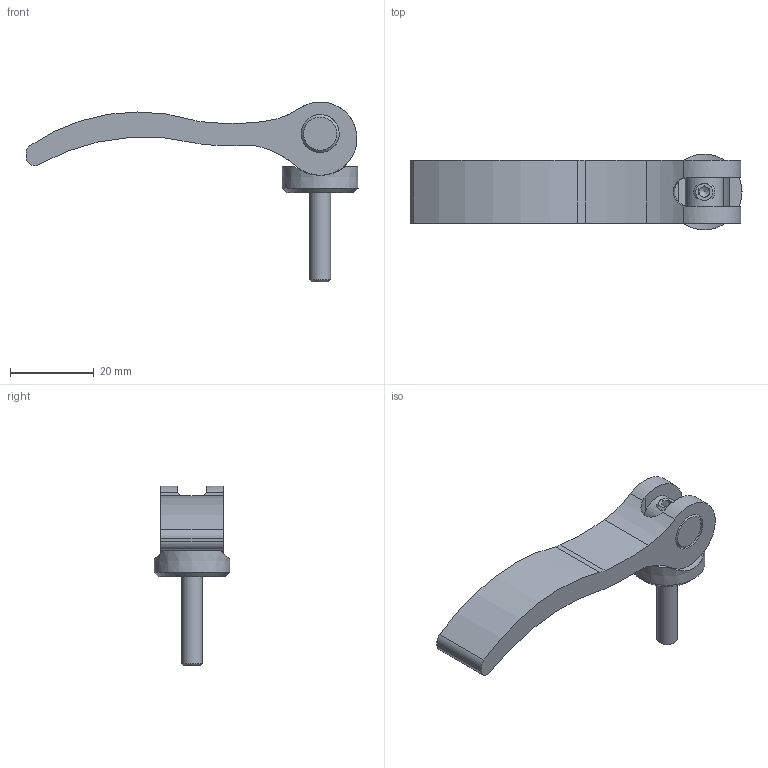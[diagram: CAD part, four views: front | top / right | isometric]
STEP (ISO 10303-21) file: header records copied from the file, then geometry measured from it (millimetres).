
FILE_DESCRIPTION(('STEP AP203'), '1');
FILE_NAME('À00360.11790520 _ Ýêñöåíòðèê 79 ìì', '', ('UNSPECIFIED'), ('UNSPECIFIED'), 'C3D Converter', 'C3D Toolkit', '');
FILE_SCHEMA(('CONFIG_CONTROL_DESIGN'));
Length unit declared in the file: millimetre
Products named in the file (5): А00360.79.03; А00360.79.02; А00360.79.01
Assembly tree (4 placements, depth 2):
  (unnamed)
    А00360.79.03
    А00360.79.02
    А00360.79.01
    (unnamed)
Bounding box: 79.33 x 18.07 x 43 mm (x, y, z)
Volume: 9794.7 mm3; surface area: 6203.8 mm2
Topology: 4 solids, 4 shells, 52 faces, 128 edges, 82 vertices
Faces by surface type: plane 24, cylinder 21, cone 7
Full cylindrical faces by diameter (mm): 4.134 x1, 5 x1, 6.6 x1, 9.1 x3
Entity records: 2375 total; most frequent: CARTESIAN_POINT 907, DIRECTION 269, ORIENTED_EDGE 228, EDGE_CURVE 114, AXIS2_PLACEMENT_3D 111, VERTEX_POINT 81, EDGE_LOOP 71, FACE_BOUND 54
